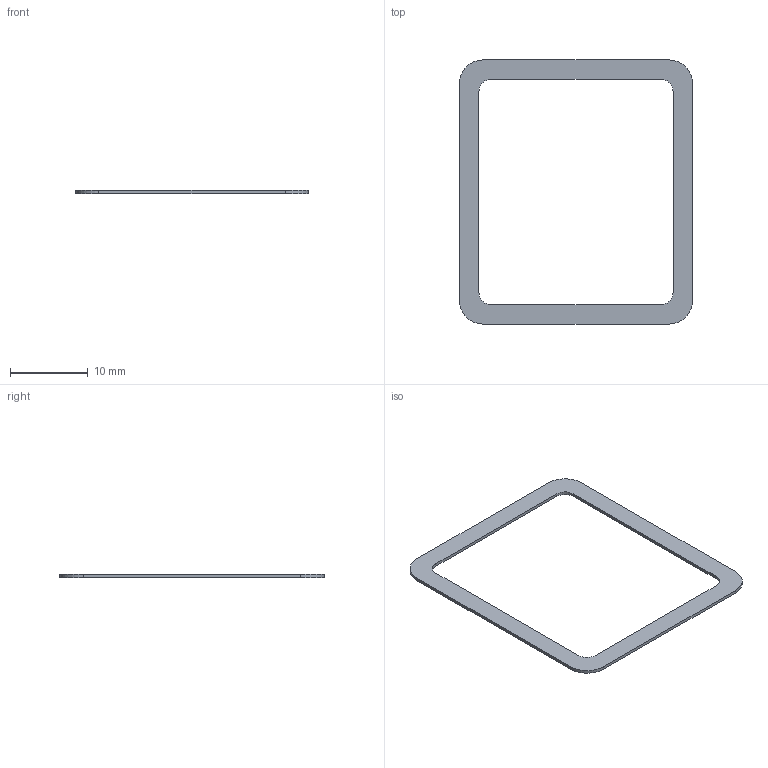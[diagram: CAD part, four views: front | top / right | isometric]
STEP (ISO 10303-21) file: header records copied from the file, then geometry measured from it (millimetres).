
FILE_DESCRIPTION(('Open CASCADE Model'),'2;1');
FILE_NAME('Open CASCADE Shape Model','2026-09-10T00:40:48',('Author'),( 'Open CASCADE'),'Open CASCADE STEP processor 7.8','Open CASCADE 7.8' ,'Unknown');
FILE_SCHEMA(('AUTOMOTIVE_DESIGN { 1 0 10303 214 1 1 1 1 }'));
Length unit declared in the file: millimetre
Products named in the file (1): Open CASCADE STEP translator 7.8 8
Bounding box: 30 x 34 x 0.4 mm (x, y, z)
Volume: 115.7 mm3; surface area: 669.7 mm2
Topology: 1 solids, 1 shells, 18 faces, 48 edges, 32 vertices
Faces by surface type: plane 10, cylinder 8
Entity records: 1186 total; most frequent: CARTESIAN_POINT 215, DIRECTION 178, ORIENTED_EDGE 96, PCURVE 96, DEFINITIONAL_REPRESENTATION 96, LINE 92, VECTOR 92, EDGE_CURVE 48
